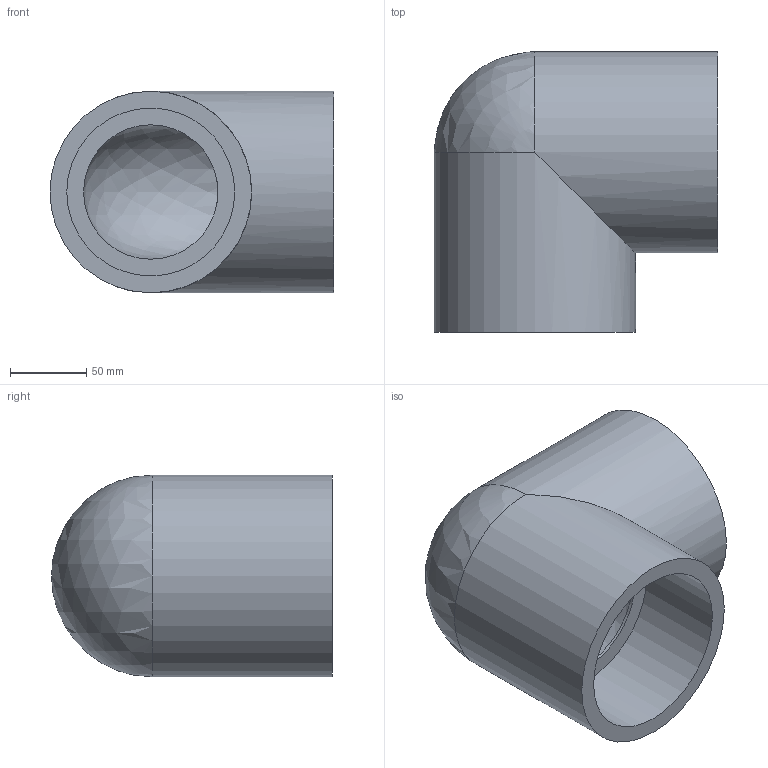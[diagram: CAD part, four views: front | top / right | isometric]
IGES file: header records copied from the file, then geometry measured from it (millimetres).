
Global section: file name: 050502110040.ipt; native system: Autodesk Inventor 2015; preprocessor: unknown; author: KIM; date: 20171207.164718; units: millimetre
Bounding box: 186 x 184 x 132 mm (x, y, z)
Volume: 1523897.4 mm3; surface area: 176423.7 mm2
Topology: 1 solids, 1 shells, 12 faces, 26 edges, 16 vertices
Faces by surface type: revolution 5, plane 4, cylinder 2, sphere 1
Full cylindrical faces by diameter (mm): 132 x2
